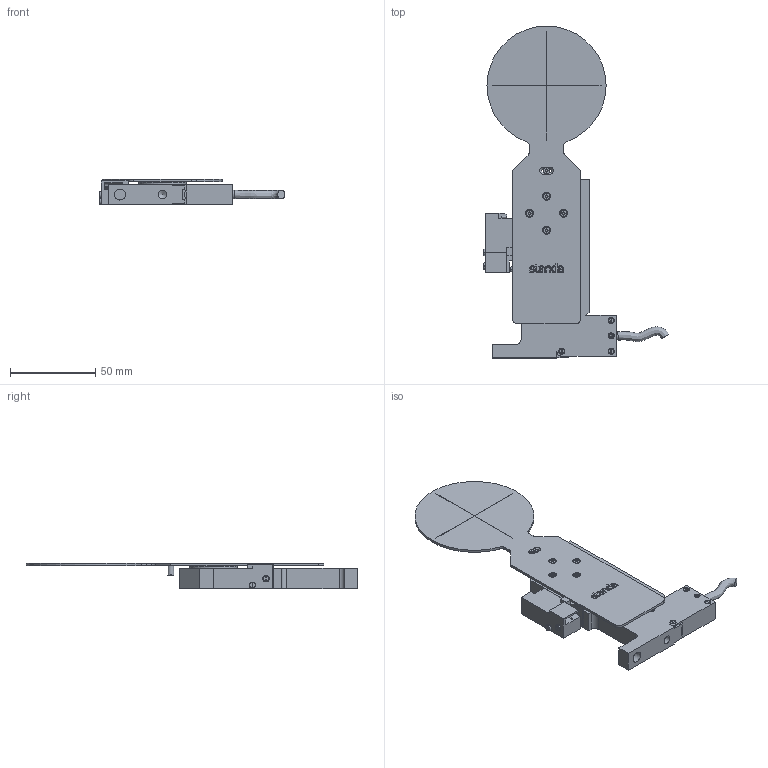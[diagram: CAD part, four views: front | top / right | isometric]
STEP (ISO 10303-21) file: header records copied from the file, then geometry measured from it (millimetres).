
FILE_DESCRIPTION(/* description */ (''),/* implementation_level */ '2;1');
FILE_NAME(/* name */ 'U:\KONSTRUKTORIAI\DOKUMENTACIJA\8\8MDS\8MDS-70\STEP\8MDS-70 SB.stp',/* time_stamp */ '2016-10-13T14:56:53+03:00',/* author */ ('dsgn32'),/* organization */ (''),/* preprocessor_version */ 'ST-DEVELOPER v15.2',/* originating_system */ 'Autodesk Inventor 2014',/* authorisation */ '');
FILE_SCHEMA (('AUTOMOTIVE_DESIGN { 1 0 10303 214 3 1 1 }'));
Length unit declared in the file: millimetre
Products named in the file (2): Part16; Assembly6
Bounding box: 109.21 x 195 x 15.2 mm (x, y, z)
Surface area: 45248.6 mm2
Topology: 34 solids, 35 shells, 908 faces, 2363 edges, 1556 vertices
Faces by surface type: plane 508, cylinder 210, cone 108, bspline 72, torus 10
Full cylindrical faces by diameter (mm): 1.221 x12, 1.411 x3, 1.5 x2, 1.567 x15, 1.6 x2, 1.783 x2, 1.9 x8, 2 x14, 2.1 x1, 2.2 x2, 2.3 x7, 2.4 x2, 2.459 x6, 3.5 x3, 4 x2, 4.6 x1, 4.917 x1, 5 x3, 6.4 x1, 6.5 x2, 7 x1, 7.188 x1, 7.5 x1, 9 x3, 9.459 x1, 9.8 x4, 10 x5, 11 x1, 16 x1, 16.5 x1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
Entity records: 26684 total; most frequent: CARTESIAN_POINT 6219, ORIENTED_EDGE 4064, DIRECTION 4041, EDGE_CURVE 2024, AXIS2_PLACEMENT_3D 1431, VERTEX_POINT 1420, EDGE_LOOP 1224, LINE 1179
